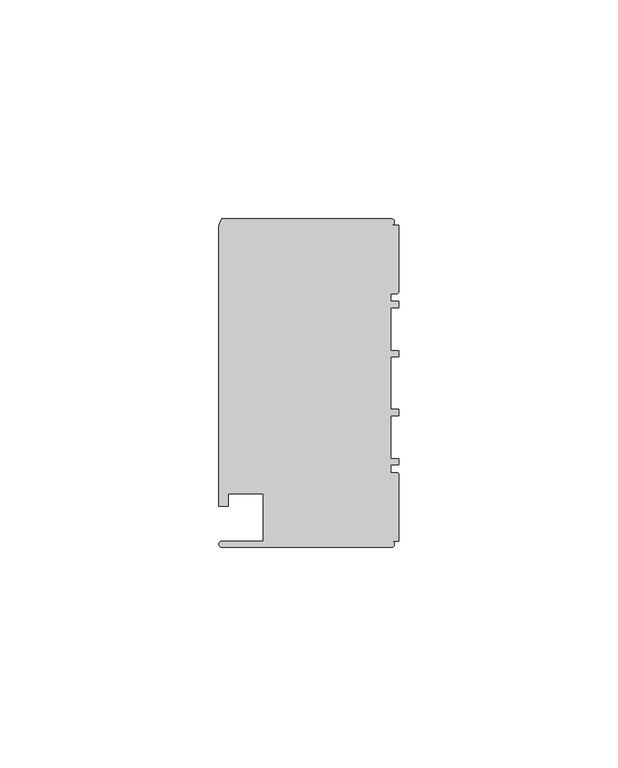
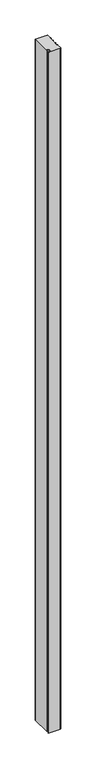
"""IFC4 building model written with IfcOpenShell, lengths in millimetres: member geometry, Прямоугольный импост : 1-AMG-1-Профиль 40Х75 Низ Л."""

from ifc_helpers import new_model, si_unit, point, frame, frame_2d, origin, place, context, project, spatial, polyline, circle_curve, trimmed, segment, composite_curve, outline, extrude, source, transform, mapped, element, save


def member_da78ab06(model_context):
    return source(origin(), model_context, "Body", "SweptSolid", [
        extrude(outline(composite_curve([segment(polyline([(-1.7, -37.5), (-40.4, -37.5)]), True, "CONTINUOUS"), segment(trimmed(circle_curve(frame_2d((-40.4, -36.8)), 0.7), [point((-40.4, -37.5))], [point((-40.4, -36.1))], False, "CARTESIAN"), True, "CONTINUOUS"), segment(polyline([(-40.4, -36.1), (-31.0, -36.1), (-31.0, -25.25), (-39.0, -25.25), (-39.0, -28.1), (-41.1, -28.1), (-41.1, 35.6)]), True, "CONTINUOUS"), segment(trimmed(circle_curve(frame_2d((-38.1714286, 35.6)), 2.9285714), [point((-41.1, 35.6))], [point((-40.4, 37.5))], False, "CARTESIAN"), True, "CONTINUOUS"), segment(polyline([(-40.4, 37.5), (-1.7, 37.5)]), True, "CONTINUOUS"), segment(trimmed(circle_curve(frame_2d((-1.7, 36.8)), 0.7), [point((-1.7, 37.5))], [point((-1.7, 36.1))], False, "CARTESIAN"), True, "CONTINUOUS"), segment(polyline([(-1.7, 36.1), (0.0, 36.1), (0.0, 20.95)]), True, "CONTINUOUS"), segment(trimmed(circle_curve(frame_2d((-0.5, 20.95)), 0.5), [point((0.0, 20.95))], [point((-0.5, 20.45))], False, "CARTESIAN"), True, "CONTINUOUS"), segment(polyline([(-0.5, 20.45), (-1.8, 20.45), (-1.8, 18.65), (0.0, 18.65), (0.0, 17.25), (-1.8, 17.25), (-1.8, 7.4), (0.0, 7.4), (0.0, 6.0), (-1.8, 6.0), (-1.8, -6.0), (0.0, -6.0), (0.0, -7.4), (-1.8, -7.4), (-1.8, -17.25), (0.0, -17.25), (0.0, -18.65), (-1.8, -18.65), (-1.8, -20.45), (-0.5, -20.45)]), True, "CONTINUOUS"), segment(trimmed(circle_curve(frame_2d((-0.5, -20.95)), 0.5), [point((-0.5, -20.45))], [point((0.0, -20.95))], False, "CARTESIAN"), True, "CONTINUOUS"), segment(polyline([(0.0, -20.95), (0.0, -36.1), (-1.7, -36.1)]), True, "CONTINUOUS"), segment(trimmed(circle_curve(frame_2d((-1.7, -36.8)), 0.7), [point((-1.7, -36.1))], [point((-1.7, -37.5))], False, "CARTESIAN"), True, "CONTINUOUS")], self_intersect=False)), frame((0.0, 0.0, -2340.0), z_axis=(0.0, 0.0, 1.0), x_axis=(1.0, 0.0, 0.0)), (0.0, 0.0, 1.0), 2340.0),
    ])


if __name__ == "__main__":
    model = new_model("IFC4")
    model_context = context("Model", 3, world=origin())
    ifc_project = project(units=[si_unit("LENGTHUNIT", "METRE", prefix="MILLI")], contexts=[model_context])
    site = spatial("IfcSite", under=ifc_project)
    building = spatial("IfcBuilding", under=site)
    placement = place(None, origin())
    member_shape = member_da78ab06(model_context)
    element("IfcMember", 1, ObjectType="Прямоугольный импост : 1-AMG-1-Профиль 40Х75 Низ Л", at=placement, inside=building, context=model_context, shape_type="MappedRepresentation", body=[
        mapped(member_shape, transform((0.0, 0.0, 0.0), x_axis=(1.0, 0.0, 0.0), y_axis=(0.0, 1.0, 0.0), z_axis=(0.0, 0.0, 1.0))),
    ])
    save(model, "model.ifc")
